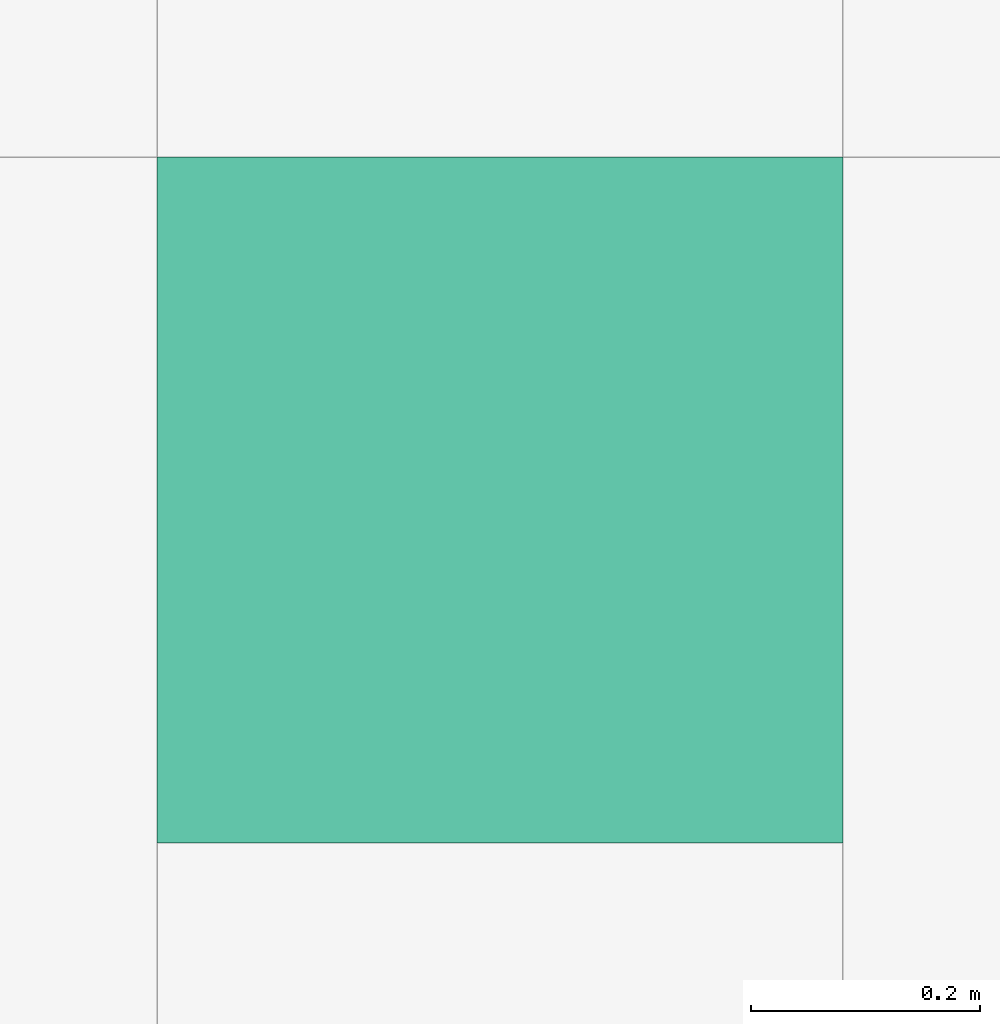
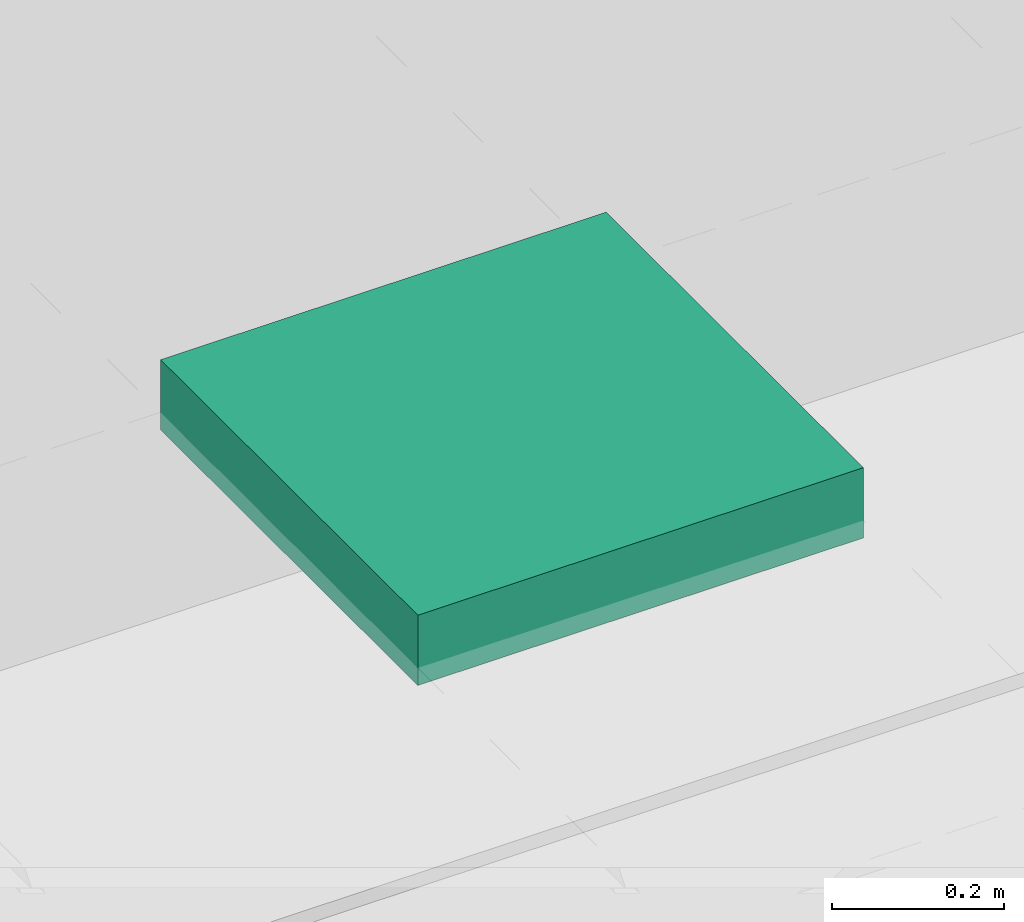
# One storey, part 286 of 347: 1 flow terminal.
"""IFC2X3 building model written with IfcOpenShell, lengths in millimetres."""

from ifc_helpers import new_model, entity, si_unit, converted_unit, derived_unit, money_unit, direction, frame, origin_with_axes, place, context, subcontext, project, spatial, open_shell, faceted_brep, surface_model, source, transform, mapped, type_object, type_shapes, element, save


model = new_model("IFC2X3")

# Units and contexts
model_context = context("Model", 3, precision=0.01, world=origin_with_axes(), true_north=direction((0.0, 1.0)))
plan_context = context("Plan", 3, precision=0.01, world=origin_with_axes(), true_north=direction((0.0, 1.0)))
body_context = subcontext(model_context, "Body", "Model", "MODEL_VIEW")
ifc_project = project(units=[si_unit("LENGTHUNIT", "METRE", prefix="MILLI"), si_unit("AREAUNIT", "SQUARE_METRE"), si_unit("VOLUMEUNIT", "CUBIC_METRE"), converted_unit("PLANEANGLEUNIT", "DEGREE", entity("IfcPlaneAngleMeasure", 0.0174532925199), si_unit("PLANEANGLEUNIT", "RADIAN"), dimensions=[0, 0, 0, 0, 0, 0, 0]), money_unit("EUR"), converted_unit("TIMEUNIT", "Year", entity("IfcTimeMeasure", 31556926.0), si_unit("TIMEUNIT", "SECOND"), dimensions=[0, 0, 1, 0, 0, 0, 0]), si_unit("MASSUNIT", "GRAM", prefix="KILO"), si_unit("THERMODYNAMICTEMPERATUREUNIT", "DEGREE_CELSIUS"), si_unit("LUMINOUSINTENSITYUNIT", "LUMEN"), si_unit("ENERGYUNIT", "JOULE", prefix="MEGA"), derived_unit("THERMALCONDUCTANCEUNIT", [(si_unit("POWERUNIT", "WATT"), 1), (si_unit("LENGTHUNIT", "METRE"), -1), (si_unit("THERMODYNAMICTEMPERATUREUNIT", "KELVIN"), -1)]), derived_unit("SPECIFICHEATCAPACITYUNIT", [(si_unit("ENERGYUNIT", "JOULE"), 1), (si_unit("MASSUNIT", "GRAM", prefix="KILO"), -1), (si_unit("THERMODYNAMICTEMPERATUREUNIT", "KELVIN"), -1)]), derived_unit("MASSDENSITYUNIT", [(si_unit("MASSUNIT", "GRAM", prefix="KILO"), 1), (si_unit("VOLUMEUNIT", "CUBIC_METRE"), -1)])], contexts=[model_context, plan_context])

# Site, building, storey
site_placement = place(None, origin_with_axes())
site = spatial("IfcSite", under=ifc_project, at=site_placement, Name="Site", CompositionType="ELEMENT")
building_placement = place(site_placement, origin_with_axes())
building = spatial("IfcBuilding", under=site, at=building_placement, Name="Naam gebouw", CompositionType="ELEMENT")
storey_placement = place(building_placement, origin_with_axes())
storey = spatial("IfcBuildingStorey", under=building, at=storey_placement, Name="begane grond", CompositionType="ELEMENT", Elevation=0.0)

# Flow terminal
lamp_type = type_object("IfcLampType", Name="TL plafond 25", PredefinedType="NOTDEFINED")
shared_shape = source(origin_with_axes(), body_context, "Body", "SurfaceModel", [
    faceted_brep([(0.0, 0.0, -100.0), (0.0, 0.0, 0.0), (-600.0, 0.0, 0.0), (-600.0, 0.0, -100.0), (0.0, 600.0, -100.0), (0.0, 600.0, 0.0), (-600.0, 600.0, 0.0), (-40.0, 40.0, 0.0), (-560.0, 40.0, 0.0), (-560.0, 560.0, 0.0), (-40.0, 560.0, 0.0), (-600.0, 600.0, -100.0), (-40.0, 40.0, -100.0), (-40.0, 560.0, -100.0), (-560.0, 560.0, -100.0), (-560.0, 40.0, -100.0)], [[[0, 1, 2, 3]], [[4, 5, 1, 0]], [[1, 5, 6, 2], [7, 8, 9, 10]], [[3, 2, 6, 11]], [[0, 3, 11, 4], [12, 13, 14, 15]], [[11, 6, 5, 4]], [[15, 8, 7, 12]], [[14, 9, 8, 15]], [[13, 10, 9, 14]], [[12, 7, 10, 13]]]),
    faceted_brep([(-40.0, 40.0, -16.3333333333), (-40.0, 40.0, 0.0), (-560.0, 40.0, 0.0), (-560.0, 40.0, -16.3333333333), (-40.0, 560.0, -16.3333333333), (-40.0, 560.0, 0.0), (-560.0, 560.0, 0.0), (-560.0, 560.0, -16.3333333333)], [[[0, 1, 2, 3]], [[4, 5, 1, 0]], [[1, 5, 6, 2]], [[3, 2, 6, 7]], [[0, 3, 7, 4]], [[7, 6, 5, 4]]]),
    surface_model("IfcShellBasedSurfaceModel", [(-559.0, 41.0, -100.0), (-559.0, 559.0, -100.0), (-40.0, 559.0, -100.0), (-40.0, 41.0, -100.0)], [open_shell([[[0, 1, 2, 3]]])]),
    faceted_brep([(-40.0, 40.0, -100.0), (-40.0, 40.0, -60.0), (-560.0, 40.0, -60.0), (-560.0, 40.0, -100.0), (-40.0, 560.0, -100.0), (-40.0, 560.0, -60.0), (-560.0, 560.0, -60.0), (-41.0, 41.0, -60.0), (-559.0, 41.0, -60.0), (-559.0, 559.0, -60.0), (-41.0, 559.0, -60.0), (-560.0, 560.0, -100.0), (-41.0, 41.0, -100.0), (-41.0, 559.0, -100.0), (-559.0, 559.0, -100.0), (-559.0, 41.0, -100.0)], [[[0, 1, 2, 3]], [[4, 5, 1, 0]], [[1, 5, 6, 2], [7, 8, 9, 10]], [[3, 2, 6, 11]], [[0, 3, 11, 4], [12, 13, 14, 15]], [[11, 6, 5, 4]], [[15, 8, 7, 12]], [[14, 9, 8, 15]], [[13, 10, 9, 14]], [[12, 7, 10, 13]]]),
    faceted_brep([(-40.0, 144.0, -48.3333333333), (-560.0, 144.0, -48.3333333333), (-560.0, 149.740251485, -47.191526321), (-40.0, 149.740251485, -47.191526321), (-40.0, 138.259748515, -47.191526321), (-560.0, 138.259748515, -47.191526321), (-560.0, 133.393398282, -43.9399350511), (-560.0, 130.141807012, -39.0735848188), (-560.0, 129.0, -33.3333333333), (-560.0, 130.141807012, -27.5930818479), (-560.0, 133.393398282, -22.7267316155), (-560.0, 138.259748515, -19.4751403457), (-560.0, 144.0, -18.3333333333), (-560.0, 149.740251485, -19.4751403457), (-560.0, 154.606601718, -22.7267316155), (-560.0, 157.858192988, -27.5930818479), (-560.0, 159.0, -33.3333333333), (-560.0, 157.858192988, -39.0735848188), (-560.0, 154.606601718, -43.9399350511), (-560.0, 144.0, -46.3333333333), (-560.0, 148.974884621, -45.343767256), (-560.0, 153.192388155, -42.5257214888), (-560.0, 156.010433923, -38.3082179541), (-560.0, 157.0, -33.3333333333), (-560.0, 156.010433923, -28.3584487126), (-560.0, 153.192388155, -24.1409451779), (-560.0, 148.974884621, -21.3228994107), (-560.0, 144.0, -20.3333333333), (-560.0, 139.025115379, -21.3228994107), (-560.0, 134.807611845, -24.1409451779), (-560.0, 131.989566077, -28.3584487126), (-560.0, 131.0, -33.3333333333), (-560.0, 131.989566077, -38.3082179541), (-560.0, 134.807611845, -42.5257214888), (-560.0, 139.025115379, -45.343767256), (-40.0, 154.606601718, -43.9399350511), (-40.0, 157.858192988, -39.0735848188), (-40.0, 159.0, -33.3333333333), (-40.0, 157.858192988, -27.5930818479), (-40.0, 154.606601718, -22.7267316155), (-40.0, 149.740251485, -19.4751403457), (-40.0, 144.0, -18.3333333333), (-40.0, 138.259748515, -19.4751403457), (-40.0, 133.393398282, -22.7267316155), (-40.0, 130.141807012, -27.5930818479), (-40.0, 129.0, -33.3333333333), (-40.0, 130.141807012, -39.0735848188), (-40.0, 133.393398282, -43.9399350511), (-40.0, 144.0, -46.3333333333), (-40.0, 139.025115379, -45.343767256), (-40.0, 134.807611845, -42.5257214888), (-40.0, 131.989566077, -38.3082179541), (-40.0, 131.0, -33.3333333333), (-40.0, 131.989566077, -28.3584487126), (-40.0, 134.807611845, -24.1409451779), (-40.0, 139.025115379, -21.3228994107), (-40.0, 144.0, -20.3333333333), (-40.0, 148.974884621, -21.3228994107), (-40.0, 153.192388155, -24.1409451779), (-40.0, 156.010433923, -28.3584487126), (-40.0, 157.0, -33.3333333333), (-40.0, 156.010433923, -38.3082179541), (-40.0, 153.192388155, -42.5257214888), (-40.0, 148.974884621, -45.343767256)], [[[0, 1, 2, 3]], [[4, 5, 1, 0]], [[1, 5, 6, 7, 8, 9, 10, 11, 12, 13, 14, 15, 16, 17, 18, 2], [19, 20, 21, 22, 23, 24, 25, 26, 27, 28, 29, 30, 31, 32, 33, 34]], [[3, 2, 18, 35]], [[0, 3, 35, 36, 37, 38, 39, 40, 41, 42, 43, 44, 45, 46, 47, 4], [48, 49, 50, 51, 52, 53, 54, 55, 56, 57, 58, 59, 60, 61, 62, 63]], [[47, 6, 5, 4]], [[46, 7, 6, 47]], [[45, 8, 7, 46]], [[44, 9, 8, 45]], [[43, 10, 9, 44]], [[42, 11, 10, 43]], [[41, 12, 11, 42]], [[40, 13, 12, 41]], [[39, 14, 13, 40]], [[38, 15, 14, 39]], [[37, 16, 15, 38]], [[36, 17, 16, 37]], [[35, 18, 17, 36]], [[63, 20, 19, 48]], [[62, 21, 20, 63]], [[61, 22, 21, 62]], [[60, 23, 22, 61]], [[59, 24, 23, 60]], [[58, 25, 24, 59]], [[57, 26, 25, 58]], [[56, 27, 26, 57]], [[55, 28, 27, 56]], [[54, 29, 28, 55]], [[53, 30, 29, 54]], [[52, 31, 30, 53]], [[51, 32, 31, 52]], [[50, 33, 32, 51]], [[49, 34, 33, 50]], [[48, 19, 34, 49]]]),
    faceted_brep([(-40.0, 248.0, -48.3333333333), (-560.0, 248.0, -48.3333333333), (-560.0, 253.740251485, -47.191526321), (-40.0, 253.740251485, -47.191526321), (-40.0, 242.259748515, -47.191526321), (-560.0, 242.259748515, -47.191526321), (-560.0, 237.393398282, -43.9399350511), (-560.0, 234.141807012, -39.0735848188), (-560.0, 233.0, -33.3333333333), (-560.0, 234.141807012, -27.5930818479), (-560.0, 237.393398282, -22.7267316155), (-560.0, 242.259748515, -19.4751403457), (-560.0, 248.0, -18.3333333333), (-560.0, 253.740251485, -19.4751403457), (-560.0, 258.606601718, -22.7267316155), (-560.0, 261.858192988, -27.5930818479), (-560.0, 263.0, -33.3333333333), (-560.0, 261.858192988, -39.0735848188), (-560.0, 258.606601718, -43.9399350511), (-560.0, 248.0, -46.3333333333), (-560.0, 252.974884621, -45.343767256), (-560.0, 257.192388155, -42.5257214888), (-560.0, 260.010433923, -38.3082179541), (-560.0, 261.0, -33.3333333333), (-560.0, 260.010433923, -28.3584487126), (-560.0, 257.192388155, -24.1409451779), (-560.0, 252.974884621, -21.3228994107), (-560.0, 248.0, -20.3333333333), (-560.0, 243.025115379, -21.3228994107), (-560.0, 238.807611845, -24.1409451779), (-560.0, 235.989566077, -28.3584487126), (-560.0, 235.0, -33.3333333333), (-560.0, 235.989566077, -38.3082179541), (-560.0, 238.807611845, -42.5257214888), (-560.0, 243.025115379, -45.343767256), (-40.0, 258.606601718, -43.9399350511), (-40.0, 261.858192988, -39.0735848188), (-40.0, 263.0, -33.3333333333), (-40.0, 261.858192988, -27.5930818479), (-40.0, 258.606601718, -22.7267316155), (-40.0, 253.740251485, -19.4751403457), (-40.0, 248.0, -18.3333333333), (-40.0, 242.259748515, -19.4751403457), (-40.0, 237.393398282, -22.7267316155), (-40.0, 234.141807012, -27.5930818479), (-40.0, 233.0, -33.3333333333), (-40.0, 234.141807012, -39.0735848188), (-40.0, 237.393398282, -43.9399350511), (-40.0, 248.0, -46.3333333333), (-40.0, 243.025115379, -45.343767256), (-40.0, 238.807611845, -42.5257214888), (-40.0, 235.989566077, -38.3082179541), (-40.0, 235.0, -33.3333333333), (-40.0, 235.989566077, -28.3584487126), (-40.0, 238.807611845, -24.1409451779), (-40.0, 243.025115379, -21.3228994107), (-40.0, 248.0, -20.3333333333), (-40.0, 252.974884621, -21.3228994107), (-40.0, 257.192388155, -24.1409451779), (-40.0, 260.010433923, -28.3584487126), (-40.0, 261.0, -33.3333333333), (-40.0, 260.010433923, -38.3082179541), (-40.0, 257.192388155, -42.5257214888), (-40.0, 252.974884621, -45.343767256)], [[[0, 1, 2, 3]], [[4, 5, 1, 0]], [[1, 5, 6, 7, 8, 9, 10, 11, 12, 13, 14, 15, 16, 17, 18, 2], [19, 20, 21, 22, 23, 24, 25, 26, 27, 28, 29, 30, 31, 32, 33, 34]], [[3, 2, 18, 35]], [[0, 3, 35, 36, 37, 38, 39, 40, 41, 42, 43, 44, 45, 46, 47, 4], [48, 49, 50, 51, 52, 53, 54, 55, 56, 57, 58, 59, 60, 61, 62, 63]], [[47, 6, 5, 4]], [[46, 7, 6, 47]], [[45, 8, 7, 46]], [[44, 9, 8, 45]], [[43, 10, 9, 44]], [[42, 11, 10, 43]], [[41, 12, 11, 42]], [[40, 13, 12, 41]], [[39, 14, 13, 40]], [[38, 15, 14, 39]], [[37, 16, 15, 38]], [[36, 17, 16, 37]], [[35, 18, 17, 36]], [[63, 20, 19, 48]], [[62, 21, 20, 63]], [[61, 22, 21, 62]], [[60, 23, 22, 61]], [[59, 24, 23, 60]], [[58, 25, 24, 59]], [[57, 26, 25, 58]], [[56, 27, 26, 57]], [[55, 28, 27, 56]], [[54, 29, 28, 55]], [[53, 30, 29, 54]], [[52, 31, 30, 53]], [[51, 32, 31, 52]], [[50, 33, 32, 51]], [[49, 34, 33, 50]], [[48, 19, 34, 49]]]),
    faceted_brep([(-40.0, 352.0, -48.3333333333), (-560.0, 352.0, -48.3333333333), (-560.0, 357.740251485, -47.191526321), (-40.0, 357.740251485, -47.191526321), (-40.0, 346.259748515, -47.191526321), (-560.0, 346.259748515, -47.191526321), (-560.0, 341.393398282, -43.9399350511), (-560.0, 338.141807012, -39.0735848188), (-560.0, 337.0, -33.3333333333), (-560.0, 338.141807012, -27.5930818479), (-560.0, 341.393398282, -22.7267316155), (-560.0, 346.259748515, -19.4751403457), (-560.0, 352.0, -18.3333333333), (-560.0, 357.740251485, -19.4751403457), (-560.0, 362.606601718, -22.7267316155), (-560.0, 365.858192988, -27.5930818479), (-560.0, 367.0, -33.3333333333), (-560.0, 365.858192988, -39.0735848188), (-560.0, 362.606601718, -43.9399350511), (-560.0, 352.0, -46.3333333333), (-560.0, 356.974884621, -45.343767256), (-560.0, 361.192388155, -42.5257214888), (-560.0, 364.010433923, -38.3082179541), (-560.0, 365.0, -33.3333333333), (-560.0, 364.010433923, -28.3584487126), (-560.0, 361.192388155, -24.1409451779), (-560.0, 356.974884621, -21.3228994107), (-560.0, 352.0, -20.3333333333), (-560.0, 347.025115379, -21.3228994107), (-560.0, 342.807611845, -24.1409451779), (-560.0, 339.989566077, -28.3584487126), (-560.0, 339.0, -33.3333333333), (-560.0, 339.989566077, -38.3082179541), (-560.0, 342.807611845, -42.5257214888), (-560.0, 347.025115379, -45.343767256), (-40.0, 362.606601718, -43.9399350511), (-40.0, 365.858192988, -39.0735848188), (-40.0, 367.0, -33.3333333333), (-40.0, 365.858192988, -27.5930818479), (-40.0, 362.606601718, -22.7267316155), (-40.0, 357.740251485, -19.4751403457), (-40.0, 352.0, -18.3333333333), (-40.0, 346.259748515, -19.4751403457), (-40.0, 341.393398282, -22.7267316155), (-40.0, 338.141807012, -27.5930818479), (-40.0, 337.0, -33.3333333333), (-40.0, 338.141807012, -39.0735848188), (-40.0, 341.393398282, -43.9399350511), (-40.0, 352.0, -46.3333333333), (-40.0, 347.025115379, -45.343767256), (-40.0, 342.807611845, -42.5257214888), (-40.0, 339.989566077, -38.3082179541), (-40.0, 339.0, -33.3333333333), (-40.0, 339.989566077, -28.3584487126), (-40.0, 342.807611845, -24.1409451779), (-40.0, 347.025115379, -21.3228994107), (-40.0, 352.0, -20.3333333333), (-40.0, 356.974884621, -21.3228994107), (-40.0, 361.192388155, -24.1409451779), (-40.0, 364.010433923, -28.3584487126), (-40.0, 365.0, -33.3333333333), (-40.0, 364.010433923, -38.3082179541), (-40.0, 361.192388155, -42.5257214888), (-40.0, 356.974884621, -45.343767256)], [[[0, 1, 2, 3]], [[4, 5, 1, 0]], [[1, 5, 6, 7, 8, 9, 10, 11, 12, 13, 14, 15, 16, 17, 18, 2], [19, 20, 21, 22, 23, 24, 25, 26, 27, 28, 29, 30, 31, 32, 33, 34]], [[3, 2, 18, 35]], [[0, 3, 35, 36, 37, 38, 39, 40, 41, 42, 43, 44, 45, 46, 47, 4], [48, 49, 50, 51, 52, 53, 54, 55, 56, 57, 58, 59, 60, 61, 62, 63]], [[47, 6, 5, 4]], [[46, 7, 6, 47]], [[45, 8, 7, 46]], [[44, 9, 8, 45]], [[43, 10, 9, 44]], [[42, 11, 10, 43]], [[41, 12, 11, 42]], [[40, 13, 12, 41]], [[39, 14, 13, 40]], [[38, 15, 14, 39]], [[37, 16, 15, 38]], [[36, 17, 16, 37]], [[35, 18, 17, 36]], [[63, 20, 19, 48]], [[62, 21, 20, 63]], [[61, 22, 21, 62]], [[60, 23, 22, 61]], [[59, 24, 23, 60]], [[58, 25, 24, 59]], [[57, 26, 25, 58]], [[56, 27, 26, 57]], [[55, 28, 27, 56]], [[54, 29, 28, 55]], [[53, 30, 29, 54]], [[52, 31, 30, 53]], [[51, 32, 31, 52]], [[50, 33, 32, 51]], [[49, 34, 33, 50]], [[48, 19, 34, 49]]]),
    faceted_brep([(-40.0, 456.0, -48.3333333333), (-560.0, 456.0, -48.3333333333), (-560.0, 461.740251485, -47.191526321), (-40.0, 461.740251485, -47.191526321), (-40.0, 450.259748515, -47.191526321), (-560.0, 450.259748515, -47.191526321), (-560.0, 445.393398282, -43.9399350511), (-560.0, 442.141807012, -39.0735848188), (-560.0, 441.0, -33.3333333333), (-560.0, 442.141807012, -27.5930818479), (-560.0, 445.393398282, -22.7267316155), (-560.0, 450.259748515, -19.4751403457), (-560.0, 456.0, -18.3333333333), (-560.0, 461.740251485, -19.4751403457), (-560.0, 466.606601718, -22.7267316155), (-560.0, 469.858192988, -27.5930818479), (-560.0, 471.0, -33.3333333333), (-560.0, 469.858192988, -39.0735848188), (-560.0, 466.606601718, -43.9399350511), (-560.0, 456.0, -46.3333333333), (-560.0, 460.974884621, -45.343767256), (-560.0, 465.192388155, -42.5257214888), (-560.0, 468.010433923, -38.3082179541), (-560.0, 469.0, -33.3333333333), (-560.0, 468.010433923, -28.3584487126), (-560.0, 465.192388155, -24.1409451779), (-560.0, 460.974884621, -21.3228994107), (-560.0, 456.0, -20.3333333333), (-560.0, 451.025115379, -21.3228994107), (-560.0, 446.807611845, -24.1409451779), (-560.0, 443.989566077, -28.3584487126), (-560.0, 443.0, -33.3333333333), (-560.0, 443.989566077, -38.3082179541), (-560.0, 446.807611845, -42.5257214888), (-560.0, 451.025115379, -45.343767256), (-40.0, 466.606601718, -43.9399350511), (-40.0, 469.858192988, -39.0735848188), (-40.0, 471.0, -33.3333333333), (-40.0, 469.858192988, -27.5930818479), (-40.0, 466.606601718, -22.7267316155), (-40.0, 461.740251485, -19.4751403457), (-40.0, 456.0, -18.3333333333), (-40.0, 450.259748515, -19.4751403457), (-40.0, 445.393398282, -22.7267316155), (-40.0, 442.141807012, -27.5930818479), (-40.0, 441.0, -33.3333333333), (-40.0, 442.141807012, -39.0735848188), (-40.0, 445.393398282, -43.9399350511), (-40.0, 456.0, -46.3333333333), (-40.0, 451.025115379, -45.343767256), (-40.0, 446.807611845, -42.5257214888), (-40.0, 443.989566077, -38.3082179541), (-40.0, 443.0, -33.3333333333), (-40.0, 443.989566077, -28.3584487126), (-40.0, 446.807611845, -24.1409451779), (-40.0, 451.025115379, -21.3228994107), (-40.0, 456.0, -20.3333333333), (-40.0, 460.974884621, -21.3228994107), (-40.0, 465.192388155, -24.1409451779), (-40.0, 468.010433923, -28.3584487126), (-40.0, 469.0, -33.3333333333), (-40.0, 468.010433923, -38.3082179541), (-40.0, 465.192388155, -42.5257214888), (-40.0, 460.974884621, -45.343767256)], [[[0, 1, 2, 3]], [[4, 5, 1, 0]], [[1, 5, 6, 7, 8, 9, 10, 11, 12, 13, 14, 15, 16, 17, 18, 2], [19, 20, 21, 22, 23, 24, 25, 26, 27, 28, 29, 30, 31, 32, 33, 34]], [[3, 2, 18, 35]], [[0, 3, 35, 36, 37, 38, 39, 40, 41, 42, 43, 44, 45, 46, 47, 4], [48, 49, 50, 51, 52, 53, 54, 55, 56, 57, 58, 59, 60, 61, 62, 63]], [[47, 6, 5, 4]], [[46, 7, 6, 47]], [[45, 8, 7, 46]], [[44, 9, 8, 45]], [[43, 10, 9, 44]], [[42, 11, 10, 43]], [[41, 12, 11, 42]], [[40, 13, 12, 41]], [[39, 14, 13, 40]], [[38, 15, 14, 39]], [[37, 16, 15, 38]], [[36, 17, 16, 37]], [[35, 18, 17, 36]], [[63, 20, 19, 48]], [[62, 21, 20, 63]], [[61, 22, 21, 62]], [[60, 23, 22, 61]], [[59, 24, 23, 60]], [[58, 25, 24, 59]], [[57, 26, 25, 58]], [[56, 27, 26, 57]], [[55, 28, 27, 56]], [[54, 29, 28, 55]], [[53, 30, 29, 54]], [[52, 31, 30, 53]], [[51, 32, 31, 52]], [[50, 33, 32, 51]], [[49, 34, 33, 50]], [[48, 19, 34, 49]]]),
])
type_shapes(lamp_type, [shared_shape])
flow_terminal_placement = place(storey_placement, frame((52274.9999918, 37462.5, 3295.0), z_axis=(0.0, 0.0, 1.0), x_axis=(1.0, 0.0, 0.0)))
element("IfcFlowTerminal", 1, at=flow_terminal_placement, inside=storey, type_object=lamp_type, Name="63_Lamp-x", ObjectType="Lamp", context=body_context, shape_type="MappedRepresentation", body=[
    mapped(shared_shape, transform((0.0, 0.0, 0.0))),
])

save(model, "model.ifc")
